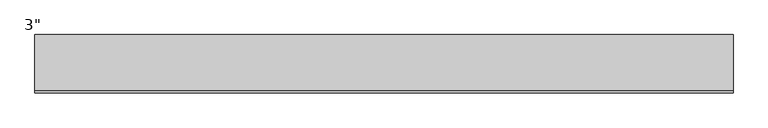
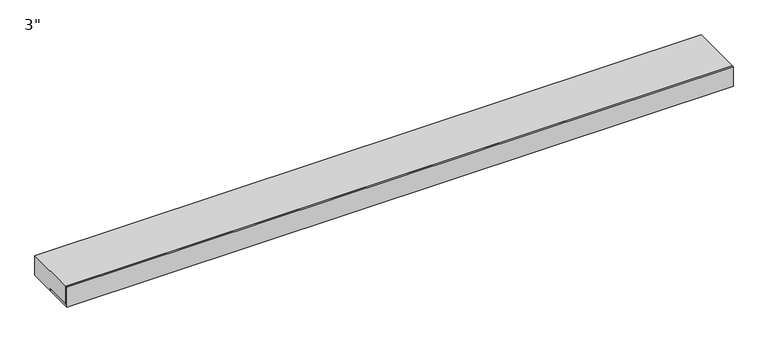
"""IFC4 building model written with IfcOpenShell, lengths in millimetres: proxy geometry."""

from ifc_helpers import new_model, si_unit, frame, origin, place, context, project, spatial, polyline, outline, extrude, source, transform, mapped, element, save


def proxy_ba8d72b4(model_context):
    return source(origin(), model_context, "Body", "SweptSolid", [
        extrude(outline(polyline([(-101.6, 76.2), (-95.25, 76.2), (-95.25, 6.35), (3.175, 6.35), (3.175, 0.0), (-101.6, 0.0), (-101.6, 76.2)])), frame((-1219.2, 0.0, 0.0), z_axis=(1.0, 0.0, 0.0), x_axis=(0.0, 1.0, 0.0)), (0.0, 0.0, 1.0), 2438.4),
        extrude(outline(polyline([(101.6, 0.0), (3.175, 0.0), (3.175, 6.35), (-95.25, 6.35), (-95.25, 76.2), (101.6, 76.2), (101.6, 0.0)])), frame((-1219.2, 0.0, 0.0), z_axis=(1.0, 0.0, 0.0), x_axis=(0.0, 1.0, 0.0)), (0.0, 0.0, 1.0), 2438.4),
    ])


if __name__ == "__main__":
    model = new_model("IFC4")
    model_context = context("Model", 3, world=origin())
    ifc_project = project(units=[si_unit("LENGTHUNIT", "METRE", prefix="MILLI")], contexts=[model_context])
    site = spatial("IfcSite", under=ifc_project)
    building = spatial("IfcBuilding", under=site)
    placement = place(None, origin())
    proxy_shape = proxy_ba8d72b4(model_context)
    element("IfcBuildingElementProxy", 1, Name="Durabond Generic Model Equalite Select Boundary Board : 3\"", ObjectType="Durabond Generic Model Equalite Select Boundary Board : 3\"", at=placement, inside=building, context=model_context, shape_type="MappedRepresentation", body=[
        mapped(proxy_shape, transform((0.0, 0.0, 0.0), x_axis=(1.0, 0.0, 0.0), y_axis=(0.0, 1.0, 0.0), z_axis=(0.0, 0.0, 1.0))),
    ])
    save(model, "model.ifc")
